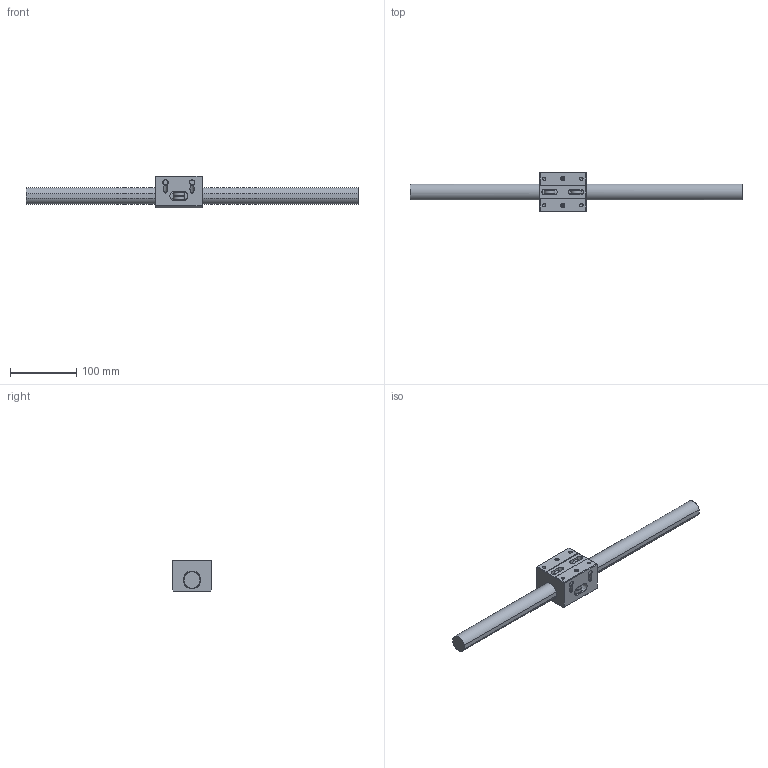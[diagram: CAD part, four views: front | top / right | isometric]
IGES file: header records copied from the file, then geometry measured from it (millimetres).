
Global section: file name: No Iges File Name specified; native system: AutoDesk Inventor R10; preprocessor: AutoDesk Inventor Iges Exporter R10; author: No Author specified; organization: No Organization specified; date: 20101222.154945; units: millimetre
Bounding box: 500 x 60 x 48 mm (x, y, z)
Surface area: 77854.3 mm2 (no closed solid volume)
Topology: 0 solids, 0 shells, 350 faces, 2656 edges, 2632 vertices
Faces by surface type: bspline 350
